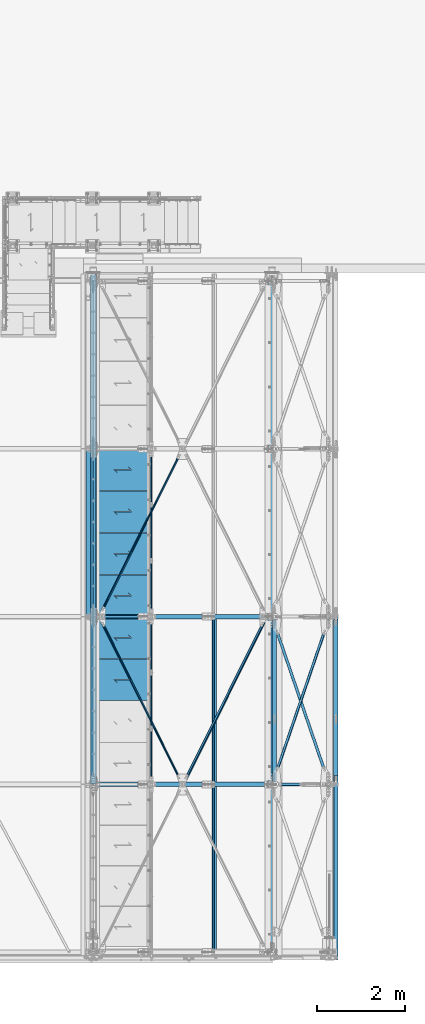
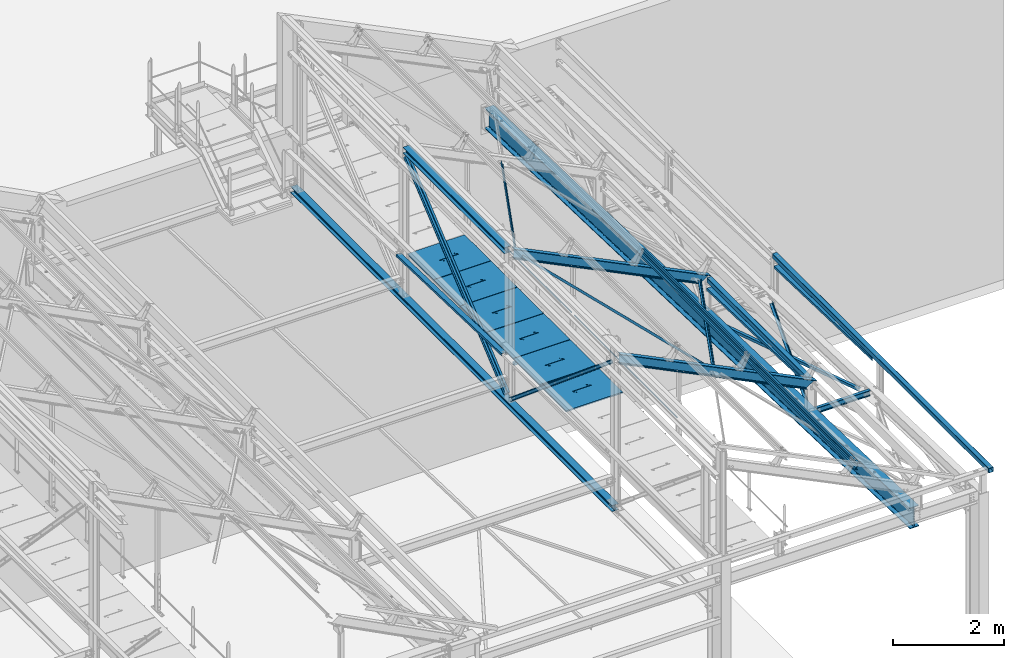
# One storey, part 56 of 362: 24 beams, 5 members, 29 elements without a shape of their own.
"""IFC2X3 building model written with IfcOpenShell, lengths in millimetres."""

from ifc_helpers import new_model, si_unit, frame, origin_with_axes, origin_2d_with_axis, place, context, subcontext, project, spatial, polyline, hollow_rectangle, hollow_circle, i_section, l_section, u_section, outline, extrude, boolean, clip, halfspace, material, type_object, element, aggregate, save


model = new_model("IFC2X3")

# Units and contexts
model_context = context("Model", 3, precision=1e-05, world=origin_with_axes())
body_context = subcontext(model_context, "Body", "Model", "MODEL_VIEW")
ifc_project = project(units=[si_unit("LENGTHUNIT", "METRE", prefix="MILLI"), si_unit("AREAUNIT", "SQUARE_METRE"), si_unit("VOLUMEUNIT", "CUBIC_METRE"), si_unit("MASSUNIT", "GRAM", prefix="KILO"), si_unit("TIMEUNIT", "SECOND"), si_unit("PLANEANGLEUNIT", "RADIAN"), si_unit("SOLIDANGLEUNIT", "STERADIAN"), si_unit("THERMODYNAMICTEMPERATUREUNIT", "DEGREE_CELSIUS"), si_unit("LUMINOUSINTENSITYUNIT", "LUMEN")], contexts=[model_context])

# Site, building, storey
site_placement = place(None, origin_with_axes())
site = spatial("IfcSite", under=ifc_project, at=site_placement, Name="Undefined", CompositionType="ELEMENT")
building_placement = place(site_placement, origin_with_axes())
building = spatial("IfcBuilding", under=site, at=building_placement, Name="Undefined", CompositionType="ELEMENT")
storey_placement = place(building_placement, origin_with_axes())
storey = spatial("IfcBuildingStorey", under=building, at=storey_placement, Name="Undefined", CompositionType="ELEMENT", Elevation=0.0)

# Assembly, beam
assembly_1_placement = place(storey_placement, origin_with_axes())
assembly_1 = element("IfcElementAssembly", 1, at=assembly_1_placement, inside=storey, AssemblyPlace="NOTDEFINED", PredefinedType="NOTDEFINED")
ifc_material_1 = material(Name="Undefined/S235-E24")
beam_type_1 = type_object("IfcBeamType", Name="L50*5", PredefinedType="NOTDEFINED")
beam_1_placement = place(assembly_1_placement, frame((36314.0683436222, 3798.78791014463, 9506.75815228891), z_axis=(0.44122107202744, 0.0, 0.89739844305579), x_axis=(-0.435090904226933, 0.874605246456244, 0.213919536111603)))
beam_1 = element("IfcBeam", 2, at=beam_1_placement, type_object=beam_type_1, material=ifc_material_1, Name="STABILITE CVT", ObjectType="L50*5", context=body_context, shape_type="Clipping", body=[
    clip(clip(extrude(l_section(Depth=50.0, Width=50.0, Thickness=5.0, FilletRadius=7.0, EdgeRadius=3.5, at=origin_2d_with_axis()), frame((4262.41841030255, -3.81543762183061e-12, 2.36611752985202e-13), z_axis=(-1.0, 0.0, 0.0), x_axis=(0.0, -1.0, 0.0)), (0.0, 0.0, 1.0), 4180.02), halfspace(frame((4208.92638047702, -25.0003728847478, -24.9999967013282), z_axis=(-1.0, 0.0, 0.0), x_axis=(0.0, 1.0, 0.0)), True)), halfspace(frame((135.8912948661, 24.9996600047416, -24.9993739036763), z_axis=(1.0, 0.0, 0.0), x_axis=(0.0, -1.0, 0.0)), True)),
])
aggregate(assembly_1, [beam_1])

assembly_2_placement = place(storey_placement, origin_with_axes())
assembly_2 = element("IfcElementAssembly", 3, at=assembly_2_placement, inside=storey, AssemblyPlace="NOTDEFINED", PredefinedType="NOTDEFINED")
beam_2_placement = place(assembly_2_placement, frame((34423.6781423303, 7601.21209454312, 10436.2000510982), z_axis=(0.44122107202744, 0.0, 0.89739844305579), x_axis=(0.435090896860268, 0.874605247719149, -0.213919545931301)))
beam_2 = element("IfcBeam", 4, at=beam_2_placement, type_object=beam_type_1, material=ifc_material_1, Name="STABILITE CVT", ObjectType="L50*5", context=body_context, shape_type="Clipping", body=[
    clip(clip(extrude(l_section(Depth=50.0, Width=50.0, Thickness=5.0, FilletRadius=7.0, EdgeRadius=3.5, at=origin_2d_with_axis()), frame((4262.41864156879, -1.18305882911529e-13, 1.18305882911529e-13), z_axis=(-1.0, 0.0, 0.0), x_axis=(0.0, -1.0, 0.0)), (0.0, 0.0, 1.0), 4180.02), halfspace(frame((4208.92661872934, 25.0000011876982, -24.9994224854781), z_axis=(-1.0, 0.0, 0.0), x_axis=(0.0, 0.0, 1.0)), True)), halfspace(frame((135.891484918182, -25.0000570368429, -24.9999963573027), z_axis=(1.0, 0.0, 0.0), x_axis=(0.0, 0.0, 1.0)), True)),
])
aggregate(assembly_2, [beam_2])

assembly_3_placement = place(storey_placement, origin_with_axes())
assembly_3 = element("IfcElementAssembly", 5, at=assembly_3_placement, inside=storey, AssemblyPlace="NOTDEFINED", PredefinedType="NOTDEFINED")
beam_3_placement = place(assembly_3_placement, frame((38208.3828948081, 7598.78791190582, 8575.3867828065), z_axis=(0.44122107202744, 0.0, 0.89739844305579), x_axis=(-0.43509087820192, -0.874605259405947, 0.213919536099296)))
beam_3 = element("IfcBeam", 6, at=beam_3_placement, type_object=beam_type_1, material=ifc_material_1, Name="STABILITE CVT", ObjectType="L50*5", context=body_context, shape_type="Clipping", body=[
    clip(clip(extrude(l_section(Depth=50.0, Width=50.0, Thickness=5.0, FilletRadius=7.0, EdgeRadius=3.5, at=origin_2d_with_axis()), frame((4267.3912059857, -3.69720075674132e-12, -3.63797880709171e-12), z_axis=(-1.0, 0.0, 0.0), x_axis=(0.0, -1.0, 0.0)), (0.0, 0.0, 1.0), 4189.97), halfspace(frame((4208.9260018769, 24.9996561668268, -24.9993340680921), z_axis=(1.0, 0.0, 0.0), x_axis=(0.0, -1.0, 0.0)), False)), halfspace(frame((135.890938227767, -25.0005331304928, -24.9987602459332), z_axis=(1.0, 0.0, 0.0), x_axis=(0.0, 0.0, 1.0)), True)),
])
aggregate(assembly_3, [beam_3])

assembly_4_placement = place(storey_placement, origin_with_axes())
assembly_4 = element("IfcElementAssembly", 7, at=assembly_4_placement, inside=storey, AssemblyPlace="NOTDEFINED", PredefinedType="NOTDEFINED")
beam_type_2 = type_object("IfcBeamType", Name="L60*6", PredefinedType="NOTDEFINED")
beam_4_placement = place(assembly_4_placement, frame((39627.1613894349, 3796.01336444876, 7774.62276540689), z_axis=(0.946212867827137, 0.323385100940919, -0.0101629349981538), x_axis=(-0.323544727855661, 0.945746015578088, -0.0297200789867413)))
beam_4 = element("IfcBeam", 8, at=beam_4_placement, type_object=beam_type_2, material=ifc_material_1, Name="STABILITE CVT", ObjectType="L60*6", context=body_context, shape_type="Clipping", body=[
    clip(clip(extrude(l_section(Depth=60.0, Width=60.0, Thickness=6.0, FilletRadius=8.0, EdgeRadius=4.0, at=origin_2d_with_axis()), frame((3750.95282930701, -8.83467238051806e-13, -7.58320368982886e-12), z_axis=(-1.0, 0.0, 0.0), x_axis=(0.0, -1.0, 0.0)), (0.0, 0.0, 1.0), 3483.91), halfspace(frame((3710.26461472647, 59.9991086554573, -29.9999875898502), z_axis=(-0.999999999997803, 2.09199999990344e-06, -1.31999999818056e-07), x_axis=(1.69800000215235e-06, 0.999999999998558, 0.0)), True)), halfspace(frame((307.727703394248, 60.0042625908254, 29.9999876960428), z_axis=(0.999999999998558, -1.69800000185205e-06, 0.0), x_axis=(1.69800000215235e-06, 0.999999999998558, 0.0)), True)),
])
aggregate(assembly_4, [beam_4])

assembly_5_placement = place(storey_placement, origin_with_axes())
assembly_5 = element("IfcElementAssembly", 9, at=assembly_5_placement, inside=storey, AssemblyPlace="NOTDEFINED", PredefinedType="NOTDEFINED")
beam_5_placement = place(assembly_5_placement, frame((38332.8386379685, 3798.08647045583, 7840.59014189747), z_axis=(-0.946212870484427, 0.323385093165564, -0.0101629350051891), x_axis=(0.323544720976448, 0.945746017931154, -0.0297200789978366)))
beam_5 = element("IfcBeam", 10, at=beam_5_placement, type_object=beam_type_2, material=ifc_material_1, Name="STABILITE CVT", ObjectType="L60*6", context=body_context, shape_type="Clipping", body=[
    clip(clip(extrude(l_section(Depth=60.0, Width=60.0, Thickness=6.0, FilletRadius=8.0, EdgeRadius=4.0, at=origin_2d_with_axis()), frame((3749.34910549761, -9.09494701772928e-13, 3.90245034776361e-14), z_axis=(-1.0, 0.0, 0.0), x_axis=(0.0, -1.0, 0.0)), (0.0, 0.0, 1.0), 3480.71), halfspace(frame((3710.26460788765, -59.9991249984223, -29.9999532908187), z_axis=(0.999999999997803, 2.09200000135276e-06, 1.31999999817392e-07), x_axis=(1.83599999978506e-06, -0.999999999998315, 0.0)), False)), halfspace(frame((307.727696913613, -60.0042480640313, 30.0000435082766), z_axis=(-0.99999999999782, -2.08799999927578e-06, 0.0), x_axis=(1.83599999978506e-06, -0.999999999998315, 0.0)), False)),
])
aggregate(assembly_5, [beam_5])

assembly_6_placement = place(storey_placement, origin_with_axes())
assembly_6 = element("IfcElementAssembly", 11, at=assembly_6_placement, inside=storey, Name="LISSE", AssemblyPlace="NOTDEFINED", PredefinedType="NOTDEFINED")
beam_type_3 = type_object("IfcBeamType", Name="UPF-100*50*4", PredefinedType="NOTDEFINED")
beam_6_placement = place(assembly_6_placement, frame((34163.5001162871, 7602.95853913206, 8291.3293909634), z_axis=(1.0, 0.0, 0.0), x_axis=(0.0, 0.99950644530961, -0.0314144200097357)))
beam_6 = element("IfcBeam", 12, at=beam_6_placement, type_object=beam_type_3, material=ifc_material_1, Name="LISSE CONTREBARDAGE", ObjectType="UPF-100*50*4", context=body_context, shape_type="SweptSolid", body=[
    extrude(u_section(Depth=100.0, FlangeWidth=50.0, WebThickness=4.0, FlangeThickness=4.0, at=origin_2d_with_axis()), frame((3791.87643071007, 0.0, 0.0), z_axis=(-1.0, 0.0, 0.0), x_axis=(0.0, -1.0, 0.0)), (0.0, 0.0, 1.0), 3791.88),
])
aggregate(assembly_6, [beam_6])

assembly_7_placement = place(storey_placement, origin_with_axes())
assembly_7 = element("IfcElementAssembly", 13, at=assembly_7_placement, inside=storey, Name="LISSE", AssemblyPlace="NOTDEFINED", PredefinedType="NOTDEFINED")
beam_7_placement = place(assembly_7_placement, frame((38380.0000000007, 3800.0, 8410.85601504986), z_axis=(1.0, 0.0, 0.0), x_axis=(0.0, 0.99950644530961, -0.0314144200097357)))
beam_7 = element("IfcBeam", 14, at=beam_7_placement, type_object=beam_type_3, material=ifc_material_1, Name="LISSE CONTREBARDAGE", ObjectType="UPF-100*50*4", context=body_context, shape_type="Clipping", body=[
    clip(clip(extrude(u_section(Depth=100.0, FlangeWidth=50.0, WebThickness=4.0, FlangeThickness=4.0, at=origin_2d_with_axis()), frame((3738.43154409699, 2.59405798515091e-14, 0.0), z_axis=(-1.0, 0.0, 0.0), x_axis=(0.0, -1.0, 0.0)), (0.0, 0.0, 1.0), 3536.42), halfspace(frame((3735.73414698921, 35.3226290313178, 49.9999999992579), z_axis=(-0.999506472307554, -0.0314135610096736, 0.0), x_axis=(0.0, 0.0, 1.0)), True)), halfspace(frame((202.484021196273, 35.5224298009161, 49.9999999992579), z_axis=(0.999506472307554, 0.0314135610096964, 0.0), x_axis=(0.0, 0.0, 1.0)), True)),
])
aggregate(assembly_7, [beam_7])

assembly_8_placement = place(storey_placement, origin_with_axes())
assembly_8 = element("IfcElementAssembly", 15, at=assembly_8_placement, inside=storey, Name="LISSE", AssemblyPlace="NOTDEFINED", PredefinedType="NOTDEFINED")
beam_8_placement = place(assembly_8_placement, frame((39775.0000000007, 3798.76352446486, 8410.85601504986), z_axis=(1.0, 0.0, 0.0), x_axis=(3.14103090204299e-11, 0.999506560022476, -0.0314107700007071)))
beam_8 = element("IfcBeam", 16, at=beam_8_placement, type_object=beam_type_3, material=ifc_material_1, Name="LISSE CONTREBARDAGE", ObjectType="UPF-100*50*4", context=body_context, shape_type="Clipping", body=[
    clip(clip(extrude(u_section(Depth=100.0, FlangeWidth=50.0, WebThickness=4.0, FlangeThickness=4.0, at=origin_2d_with_axis()), frame((3739.66801927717, 0.0, 0.0), z_axis=(-1.0, 0.0, 0.0), x_axis=(0.0, -1.0, 0.0)), (0.0, 0.0, 1.0), 3536.42), halfspace(frame((3736.9701407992, 35.3478853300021, 49.9999999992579), z_axis=(-0.999506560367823, -0.0314107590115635, 0.0), x_axis=(0.0, 0.0, 1.0)), True)), halfspace(frame((203.720015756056, 35.5605322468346, 49.9999999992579), z_axis=(0.999506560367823, 0.0314107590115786, 0.0), x_axis=(0.0, 0.0, 1.0)), True)),
])
aggregate(assembly_8, [beam_8])

assembly_9_placement = place(storey_placement, origin_with_axes())
assembly_9 = element("IfcElementAssembly", 17, at=assembly_9_placement, inside=storey, Name="LISSE", AssemblyPlace="NOTDEFINED", PredefinedType="NOTDEFINED")
beam_type_4 = type_object("IfcBeamType", Name="TUBE-C-100*100*4", PredefinedType="NOTDEFINED")
beam_9_placement = place(assembly_9_placement, frame((39775.0, -180.0, 8500.0), z_axis=(0.0, 0.0, 1.0), x_axis=(0.0, 1.0, 0.0)))
beam_9 = element("IfcBeam", 18, at=beam_9_placement, type_object=beam_type_4, material=ifc_material_1, Name="LISSE ACROTERE", ObjectType="TUBE-C-100*100*4", context=body_context, shape_type="SweptSolid", body=[
    extrude(hollow_rectangle(XDim=100.0, YDim=100.0, WallThickness=4.0, InnerFilletRadius=4.0, OuterFilletRadius=8.0, at=origin_2d_with_axis()), frame((7775.00000003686, 0.0, 0.0), z_axis=(-1.0, 0.0, 0.0), x_axis=(0.0, -1.0, 0.0)), (0.0, 0.0, 1.0), 7775.0),
])
aggregate(assembly_9, [beam_9])

assembly_10_placement = place(storey_placement, origin_with_axes())
assembly_10 = element("IfcElementAssembly", 19, at=assembly_10_placement, inside=storey, Name="LISSE", AssemblyPlace="NOTDEFINED", PredefinedType="NOTDEFINED")
beam_10_placement = place(assembly_10_placement, frame((38380.0, 3870.0, 8500.0), z_axis=(0.0, 0.0, 1.0), x_axis=(0.0, 1.0, 0.0)))
beam_10 = element("IfcBeam", 20, at=beam_10_placement, type_object=beam_type_4, material=ifc_material_1, Name="LISSE ACROTERE", ObjectType="TUBE-C-100*100*4", context=body_context, shape_type="SweptSolid", body=[
    extrude(hollow_rectangle(XDim=100.0, YDim=100.0, WallThickness=4.0, InnerFilletRadius=4.0, OuterFilletRadius=8.0, at=origin_2d_with_axis()), frame((3660.0, 0.0, 0.0), z_axis=(-1.0, 0.0, 0.0), x_axis=(0.0, -1.0, 0.0)), (0.0, 0.0, 1.0), 3660.0),
])
aggregate(assembly_10, [beam_10])

assembly_11_placement = place(storey_placement, origin_with_axes())
assembly_11 = element("IfcElementAssembly", 21, at=assembly_11_placement, inside=storey, AssemblyPlace="NOTDEFINED", PredefinedType="NOTDEFINED")
beam_type_5 = type_object("IfcBeamType", Name="TOLE30*940", PredefinedType="NOTDEFINED")
beam_11_placement = place(assembly_11_placement, frame((35536.4915949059, 8545.00031925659, 8115.0), z_axis=(0.0, 0.0, 1.0), x_axis=(-1.0, 0.0, 0.0)))
beam_11 = element("IfcBeam", 22, at=beam_11_placement, type_object=beam_type_5, material=ifc_material_1, Name="CAILLEBOTIS", ObjectType="TOLE30*940", context=body_context, shape_type="CSG", body=[
    boolean("DIFFERENCE", extrude(outline(polyline([(0.0, 0.0), (1179.99169921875, 0.0), (1179.99169921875, 940.0), (-9.39995516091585e-07, 940.0), (0.0, 0.0)])), frame((0.0, 0.0, -15.0), z_axis=(0.0, 0.0, 1.0), x_axis=(1.0, 0.0, 0.0)), (0.0, 0.0, 1.0), 30.0), extrude(outline(polyline([(0.0, 0.0), (9.99999999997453, 6.91215973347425e-11), (10.0000000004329, 75.8578643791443), (282.842712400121, -196.984848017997), (282.842712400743, -96.9848480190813), (272.842712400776, -96.9848480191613), (272.842712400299, -172.842712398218), (0.0, 100.0), (0.0, 0.0)])), frame((724.286946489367, 535.710676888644, -17.5), z_axis=(0.0, 0.0, 1.0), x_axis=(-0.707106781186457, -0.707106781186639, 0.0)), (0.0, 0.0, 1.0), 35.0)),
])
aggregate(assembly_11, [beam_11])

assembly_12_placement = place(storey_placement, origin_with_axes())
assembly_12 = element("IfcElementAssembly", 23, at=assembly_12_placement, inside=storey, AssemblyPlace="NOTDEFINED", PredefinedType="NOTDEFINED")
beam_12_placement = place(assembly_12_placement, frame((35536.4916006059, 9495.00031925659, 8115.0), z_axis=(0.0, 0.0, 1.0), x_axis=(-1.0, 0.0, 0.0)))
beam_12 = element("IfcBeam", 24, at=beam_12_placement, type_object=beam_type_5, material=ifc_material_1, Name="CAILLEBOTIS", ObjectType="TOLE30*940", context=body_context, shape_type="CSG", body=[
    boolean("DIFFERENCE", extrude(outline(polyline([(0.0, 0.0), (1179.99169921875, 0.0), (1179.99169921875, 940.0), (-9.39995516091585e-07, 940.0), (0.0, 0.0)])), frame((0.0, 0.0, -15.0), z_axis=(0.0, 0.0, 1.0), x_axis=(1.0, 0.0, 0.0)), (0.0, 0.0, 1.0), 30.0), extrude(outline(polyline([(0.0, 0.0), (9.99999999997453, 6.91215973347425e-11), (10.0000000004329, 75.8578643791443), (282.842712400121, -196.984848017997), (282.842712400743, -96.9848480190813), (272.842712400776, -96.9848480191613), (272.842712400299, -172.842712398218), (0.0, 100.0), (0.0, 0.0)])), frame((724.286946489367, 535.710676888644, -17.5), z_axis=(0.0, 0.0, 1.0), x_axis=(-0.707106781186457, -0.707106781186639, 0.0)), (0.0, 0.0, 1.0), 35.0)),
])
aggregate(assembly_12, [beam_12])

assembly_13_placement = place(storey_placement, origin_with_axes())
assembly_13 = element("IfcElementAssembly", 25, at=assembly_13_placement, inside=storey, AssemblyPlace="NOTDEFINED", PredefinedType="NOTDEFINED")
beam_13_placement = place(assembly_13_placement, frame((35536.4916063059, 10445.0003192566, 8115.0), z_axis=(0.0, 0.0, 1.0), x_axis=(-1.0, 0.0, 0.0)))
beam_13 = element("IfcBeam", 26, at=beam_13_placement, type_object=beam_type_5, material=ifc_material_1, Name="CAILLEBOTIS", ObjectType="TOLE30*940", context=body_context, shape_type="CSG", body=[
    boolean("DIFFERENCE", extrude(outline(polyline([(0.0, 0.0), (1179.99169921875, 0.0), (1179.99169921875, 940.0), (-9.39995516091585e-07, 940.0), (0.0, 0.0)])), frame((0.0, 0.0, -15.0), z_axis=(0.0, 0.0, 1.0), x_axis=(1.0, 0.0, 0.0)), (0.0, 0.0, 1.0), 30.0), extrude(outline(polyline([(0.0, 0.0), (9.99999999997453, 6.91215973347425e-11), (10.0000000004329, 75.8578643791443), (282.842712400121, -196.984848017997), (282.842712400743, -96.9848480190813), (272.842712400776, -96.9848480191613), (272.842712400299, -172.842712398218), (0.0, 100.0), (0.0, 0.0)])), frame((724.286946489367, 535.710676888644, -17.5), z_axis=(0.0, 0.0, 1.0), x_axis=(-0.707106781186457, -0.707106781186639, 0.0)), (0.0, 0.0, 1.0), 35.0)),
])
aggregate(assembly_13, [beam_13])

assembly_14_placement = place(storey_placement, origin_with_axes())
assembly_14 = element("IfcElementAssembly", 27, at=assembly_14_placement, inside=storey, AssemblyPlace="NOTDEFINED", PredefinedType="NOTDEFINED")
beam_14_placement = place(assembly_14_placement, frame((35536.4916120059, 11395.0003240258, 8115.0), z_axis=(0.0, 0.0, 1.0), x_axis=(-1.0, 0.0, 0.0)))
beam_14 = element("IfcBeam", 28, at=beam_14_placement, type_object=beam_type_5, material=ifc_material_1, Name="CAILLEBOTIS", ObjectType="TOLE30*940", context=body_context, shape_type="CSG", body=[
    boolean("DIFFERENCE", extrude(outline(polyline([(0.0, 0.0), (1179.99169921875, 0.0), (1179.99169921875, 940.0), (-9.39995516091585e-07, 940.0), (0.0, 0.0)])), frame((0.0, 0.0, -15.0), z_axis=(0.0, 0.0, 1.0), x_axis=(1.0, 0.0, 0.0)), (0.0, 0.0, 1.0), 30.0), extrude(outline(polyline([(0.0, 0.0), (9.99999999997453, 6.91215973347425e-11), (10.0000000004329, 75.8578643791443), (282.842712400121, -196.984848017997), (282.842712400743, -96.9848480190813), (272.842712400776, -96.9848480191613), (272.842712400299, -172.842712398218), (0.0, 100.0), (0.0, 0.0)])), frame((724.286946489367, 535.710676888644, -17.5), z_axis=(0.0, 0.0, 1.0), x_axis=(-0.707106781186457, -0.707106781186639, 0.0)), (0.0, 0.0, 1.0), 35.0)),
])
aggregate(assembly_14, [beam_14])

assembly_15_placement = place(storey_placement, origin_with_axes())
assembly_15 = element("IfcElementAssembly", 29, at=assembly_15_placement, inside=storey, AssemblyPlace="NOTDEFINED", PredefinedType="NOTDEFINED")
beam_15_placement = place(assembly_15_placement, frame((35536.4916063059, 6645.00031925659, 8115.0), z_axis=(0.0, 0.0, 1.0), x_axis=(-1.0, 0.0, 0.0)))
beam_15 = element("IfcBeam", 30, at=beam_15_placement, type_object=beam_type_5, material=ifc_material_1, Name="CAILLEBOTIS", ObjectType="TOLE30*940", context=body_context, shape_type="CSG", body=[
    boolean("DIFFERENCE", extrude(outline(polyline([(0.0, 0.0), (1179.99169921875, 0.0), (1179.99169921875, 940.0), (-9.39995516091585e-07, 940.0), (0.0, 0.0)])), frame((0.0, 0.0, -15.0), z_axis=(0.0, 0.0, 1.0), x_axis=(1.0, 0.0, 0.0)), (0.0, 0.0, 1.0), 30.0), extrude(outline(polyline([(0.0, 0.0), (9.99999999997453, 6.91215973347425e-11), (10.0000000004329, 75.8578643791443), (282.842712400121, -196.984848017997), (282.842712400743, -96.9848480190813), (272.842712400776, -96.9848480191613), (272.842712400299, -172.842712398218), (0.0, 100.0), (0.0, 0.0)])), frame((724.286946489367, 535.710676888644, -17.5), z_axis=(0.0, 0.0, 1.0), x_axis=(-0.707106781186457, -0.707106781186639, 0.0)), (0.0, 0.0, 1.0), 35.0)),
])
aggregate(assembly_15, [beam_15])

assembly_16_placement = place(storey_placement, origin_with_axes())
assembly_16 = element("IfcElementAssembly", 31, at=assembly_16_placement, inside=storey, AssemblyPlace="NOTDEFINED", PredefinedType="NOTDEFINED")
beam_16_placement = place(assembly_16_placement, frame((35536.4916120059, 7595.00032402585, 8115.0), z_axis=(0.0, 0.0, 1.0), x_axis=(-1.0, 0.0, 0.0)))
beam_16 = element("IfcBeam", 32, at=beam_16_placement, type_object=beam_type_5, material=ifc_material_1, Name="CAILLEBOTIS", ObjectType="TOLE30*940", context=body_context, shape_type="CSG", body=[
    boolean("DIFFERENCE", extrude(outline(polyline([(0.0, 0.0), (1179.99169921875, 0.0), (1179.99169921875, 940.0), (-9.39995516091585e-07, 940.0), (0.0, 0.0)])), frame((0.0, 0.0, -15.0), z_axis=(0.0, 0.0, 1.0), x_axis=(1.0, 0.0, 0.0)), (0.0, 0.0, 1.0), 30.0), extrude(outline(polyline([(0.0, 0.0), (9.99999999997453, 6.91215973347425e-11), (10.0000000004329, 75.8578643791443), (282.842712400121, -196.984848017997), (282.842712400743, -96.9848480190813), (272.842712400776, -96.9848480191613), (272.842712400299, -172.842712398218), (0.0, 100.0), (0.0, 0.0)])), frame((724.286946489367, 535.710676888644, -17.5), z_axis=(0.0, 0.0, 1.0), x_axis=(-0.707106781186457, -0.707106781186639, 0.0)), (0.0, 0.0, 1.0), 35.0)),
])
aggregate(assembly_16, [beam_16])

assembly_17_placement = place(storey_placement, origin_with_axes())
assembly_17 = element("IfcElementAssembly", 33, at=assembly_17_placement, inside=storey, Name="MAIN COURANTE", AssemblyPlace="NOTDEFINED", PredefinedType="NOTDEFINED")
beam_type_6 = type_object("IfcBeamType", Name="TUBE-26.9*2", PredefinedType="NOTDEFINED")
beam_17_placement = place(assembly_17_placement, frame((35593.9917170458, 7544.99999422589, 8673.80000207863), z_axis=(0.0, 0.0, 1.0), x_axis=(0.0, -1.0, 0.0)))
beam_17 = element("IfcBeam", 34, at=beam_17_placement, type_object=beam_type_6, material=ifc_material_1, Name="LISSE", ObjectType="TUBE-26.9*2", context=body_context, shape_type="SweptSolid", body=[
    extrude(hollow_circle(Radius=13.44999981, WallThickness=2.0, at=origin_2d_with_axis()), frame((3690.00000000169, 3.69000323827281e-24, 0.0), z_axis=(-1.0, 0.0, 0.0), x_axis=(0.0, -1.0, 0.0)), (0.0, 0.0, 1.0), 3690.0),
])
aggregate(assembly_17, [beam_17])

assembly_18_placement = place(storey_placement, origin_with_axes())
assembly_18 = element("IfcElementAssembly", 35, at=assembly_18_placement, inside=storey, Name="MAIN COURANTE", AssemblyPlace="NOTDEFINED", PredefinedType="NOTDEFINED")
beam_18_placement = place(assembly_18_placement, frame((35593.9917197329, 11344.9999942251, 8673.79999937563), z_axis=(0.0, 0.0, 1.0), x_axis=(0.0, -1.0, 0.0)))
beam_18 = element("IfcBeam", 36, at=beam_18_placement, type_object=beam_type_6, material=ifc_material_1, Name="LISSE", ObjectType="TUBE-26.9*2", context=body_context, shape_type="SweptSolid", body=[
    extrude(hollow_circle(Radius=13.44999981, WallThickness=2.0, at=origin_2d_with_axis()), frame((3690.00000000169, 3.69000323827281e-24, 0.0), z_axis=(-1.0, 0.0, 0.0), x_axis=(0.0, -1.0, 0.0)), (0.0, 0.0, 1.0), 3690.0),
])
aggregate(assembly_18, [beam_18])

assembly_19_placement = place(storey_placement, origin_with_axes())
assembly_19 = element("IfcElementAssembly", 37, at=assembly_19_placement, inside=storey, AssemblyPlace="NOTDEFINED", PredefinedType="NOTDEFINED")
ifc_material_2 = material(Name="Undefined/S275-E28")
beam_type_7 = type_object("IfcBeamType", Name="HEA140", PredefinedType="NOTDEFINED")
beam_19_placement = place(assembly_19_placement, frame((34283.5, 11325.0, 10489.5), z_axis=(0.0, 0.0, 1.0), x_axis=(0.0, -1.0, 0.0)))
beam_19 = element("IfcBeam", 38, at=beam_19_placement, type_object=beam_type_7, material=ifc_material_2, Name="LONGERON", ObjectType="HEA140", context=body_context, shape_type="SweptSolid", body=[
    extrude(i_section(OverallWidth=140.0, OverallDepth=133.0, WebThickness=5.5, FlangeThickness=8.5, FilletRadius=12.0, at=origin_2d_with_axis()), frame((3650.0, 0.0, 0.0), z_axis=(-1.0, 0.0, 0.0), x_axis=(0.0, -1.0, 0.0)), (0.0, 0.0, 1.0), 3650.0),
])
aggregate(assembly_19, [beam_19])

assembly_20_placement = place(storey_placement, origin_with_axes())
assembly_20 = element("IfcElementAssembly", 39, at=assembly_20_placement, inside=storey, AssemblyPlace="NOTDEFINED", PredefinedType="NOTDEFINED")
beam_20_placement = place(assembly_20_placement, frame((34279.9999999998, 15350.000000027, 7183.50000000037), z_axis=(0.0, 0.0, 1.0), x_axis=(0.0, -1.0, 0.0)))
beam_20 = element("IfcBeam", 40, at=beam_20_placement, type_object=beam_type_7, material=ifc_material_2, Name="LONGERON", ObjectType="HEA140", context=body_context, shape_type="SweptSolid", body=[
    extrude(i_section(OverallWidth=140.0, OverallDepth=133.0, WebThickness=5.5, FlangeThickness=8.5, FilletRadius=12.0, at=origin_2d_with_axis()), frame((11545.0000000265, 0.0, 0.0), z_axis=(-1.0, 0.0, 0.0), x_axis=(0.0, -1.0, 0.0)), (0.0, 0.0, 1.0), 11545.0),
])
aggregate(assembly_20, [beam_20])

assembly_21_placement = place(storey_placement, origin_with_axes())
assembly_21 = element("IfcElementAssembly", 41, at=assembly_21_placement, inside=storey, Name="PANNE SHED", AssemblyPlace="NOTDEFINED", PredefinedType="NOTDEFINED")
beam_type_8 = type_object("IfcBeamType", Name="B140/150", PredefinedType="NOTDEFINED")
beam_21_placement = place(assembly_21_placement, frame((37020.1555051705, -154.999920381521, 9532.89989858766), z_axis=(0.44122107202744, 0.0, 0.89739844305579), x_axis=(0.0, 1.0, 0.0)))
beam_21 = element("IfcBeam", 42, at=beam_21_placement, type_object=beam_type_8, material=ifc_material_1, Name="PANNE SHED", ObjectType="B140/150", context=body_context, shape_type="SweptSolid", body=[
    extrude(outline(polyline([(-27.9999999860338, 36.0000000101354), (-27.999999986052, 70.0000000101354), (28.0000000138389, 70.0000000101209), (28.0000000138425, 58.0000000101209), (26.5000000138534, 58.0000000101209), (26.5000000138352, 68.5000000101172), (-26.4999999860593, 68.5000000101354), (-26.4999999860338, 36.7000007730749), (-1.49999998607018, 15.6999998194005), (-1.49999998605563, -15.6999997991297), (-26.4999999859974, -36.7000007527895), (-26.4999999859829, -68.49999998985), (26.5000000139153, -68.4999999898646), (26.500000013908, -57.9999999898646), (28.0000000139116, -57.9999999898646), (28.0000000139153, -69.9999999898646), (-27.9999999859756, -69.99999998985), (-27.9999999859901, -35.99999998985), (-2.99999998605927, -14.9999999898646), (-2.9999999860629, 15.0000000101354), (-27.9999999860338, 36.0000000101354)])), frame((7750.00000000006, -3.63797880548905e-12, 0.0), z_axis=(-1.0, 0.0, 0.0), x_axis=(0.0, -1.0, 0.0)), (0.0, 0.0, 1.0), 7750.0),
])
aggregate(assembly_21, [beam_21])

# Assembly, member
assembly_22_placement = place(storey_placement, origin_with_axes())
assembly_22 = element("IfcElementAssembly", 43, at=assembly_22_placement, inside=storey, AssemblyPlace="NOTDEFINED", PredefinedType="NOTDEFINED")
member_type_1 = type_object("IfcMemberType", Name="UPN80", PredefinedType="NOTDEFINED")
member_1_placement = place(assembly_22_placement, frame((34307.4999999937, 7599.99999999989, 7250.0), z_axis=(0.0, -0.640939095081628, 0.767591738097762), x_axis=(0.0, 0.7675917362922, 0.640939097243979)))
member_1 = element("IfcMember", 44, at=member_1_placement, type_object=member_type_1, material=ifc_material_2, Name="DIAGONALE", ObjectType="UPN80", context=body_context, shape_type="Clipping", body=[
    clip(clip(extrude(u_section(Depth=80.0, FlangeWidth=45.0, WebThickness=6.0, FlangeThickness=8.0, FilletRadius=8.0, EdgeRadius=4.0, FlangeSlope=0.0798299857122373, at=origin_2d_with_axis()), frame((4910.05224962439, 0.0, 1.04649042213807e-12), z_axis=(-1.0, 0.0, 0.0), x_axis=(0.0, -1.0, 0.0)), (0.0, 0.0, 1.0), 4869.56), halfspace(frame((4830.5483535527, 27.5000000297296, 39.9999985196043), z_axis=(1.0, 0.0, 0.0), x_axis=(0.0, 1.0, 0.0)), False)), halfspace(frame((119.999999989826, 27.5000000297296, 39.9999985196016), z_axis=(1.0, 0.0, 0.0), x_axis=(0.0, 1.0, 0.0)), True)),
])
aggregate(assembly_22, [member_1])

assembly_23_placement = place(storey_placement, origin_with_axes())
assembly_23 = element("IfcElementAssembly", 45, at=assembly_23_placement, inside=storey, AssemblyPlace="NOTDEFINED", PredefinedType="NOTDEFINED")
member_2_placement = place(assembly_23_placement, frame((34252.5000000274, 11400.0000003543, 10422.9999997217), z_axis=(0.0, -0.640939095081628, 0.767591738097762), x_axis=(0.0, -0.767591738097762, -0.640939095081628)))
member_2 = element("IfcMember", 46, at=member_2_placement, type_object=member_type_1, material=ifc_material_2, Name="DIAGONALE", ObjectType="UPN80", context=body_context, shape_type="Clipping", body=[
    clip(clip(extrude(u_section(Depth=80.0, FlangeWidth=45.0, WebThickness=6.0, FlangeThickness=8.0, FilletRadius=8.0, EdgeRadius=4.0, FlangeSlope=0.0798299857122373, at=origin_2d_with_axis()), frame((4910.05224962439, 0.0, 1.04649042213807e-12), z_axis=(-1.0, 0.0, 0.0), x_axis=(0.0, -1.0, 0.0)), (0.0, 0.0, 1.0), 4869.56), halfspace(frame((4830.5483535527, 27.5000000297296, 39.9999985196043), z_axis=(-1.0, 0.0, 0.0), x_axis=(0.0, -1.0, 0.0)), True)), halfspace(frame((119.999999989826, 27.5000000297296, 39.9999985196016), z_axis=(-1.0, 0.0, 0.0), x_axis=(0.0, -1.0, 0.0)), False)),
])
aggregate(assembly_23, [member_2])

assembly_24_placement = place(storey_placement, origin_with_axes())
assembly_24 = element("IfcElementAssembly", 47, at=assembly_24_placement, inside=storey, AssemblyPlace="NOTDEFINED", PredefinedType="NOTDEFINED")
member_3_placement = place(assembly_24_placement, frame((34252.4999999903, 3800.00000035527, 10422.9999997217), z_axis=(0.0, -0.640939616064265, -0.767591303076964), x_axis=(0.0, 0.767591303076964, -0.640939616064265)))
member_3 = element("IfcMember", 48, at=member_3_placement, type_object=member_type_1, material=ifc_material_2, Name="DIAGONALE", ObjectType="UPN80", context=body_context, shape_type="Clipping", body=[
    clip(clip(extrude(u_section(Depth=80.0, FlangeWidth=45.0, WebThickness=6.0, FlangeThickness=8.0, FilletRadius=8.0, EdgeRadius=4.0, FlangeSlope=0.0798299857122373, at=origin_2d_with_axis()), frame((4910.05224962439, 0.0, 1.04649042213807e-12), z_axis=(-1.0, 0.0, 0.0), x_axis=(0.0, -1.0, 0.0)), (0.0, 0.0, 1.0), 4869.56), halfspace(frame((4830.54835301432, 27.49999999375, -39.9999989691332), z_axis=(1.0, 0.0, 0.0), x_axis=(0.0, -1.0, 0.0)), False)), halfspace(frame((119.999999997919, 27.49999999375, -39.9999989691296), z_axis=(1.0, 0.0, 0.0), x_axis=(0.0, -1.0, 0.0)), True)),
])
aggregate(assembly_24, [member_3])

# Assembly, beam
assembly_25_placement = place(storey_placement, origin_with_axes())
assembly_25 = element("IfcElementAssembly", 49, at=assembly_25_placement, inside=storey, Name="TRAVERSE", AssemblyPlace="NOTDEFINED", PredefinedType="NOTDEFINED")
beam_type_9 = type_object("IfcBeamType", Name="IPE450", PredefinedType="NOTDEFINED")
beam_22_placement = place(assembly_25_placement, frame((38330.0000000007, 73.5353861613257, 7822.57984998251), z_axis=(-1.05403257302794e-09, -0.0314112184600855, -0.999506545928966), x_axis=(3.14103090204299e-11, 0.999506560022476, -0.0314107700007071)))
beam_22 = element("IfcBeam", 50, at=beam_22_placement, type_object=beam_type_9, material=ifc_material_2, Name="TRAVERSE", ObjectType="IPE450", context=body_context, shape_type="Clipping", body=[
    clip(extrude(i_section(OverallWidth=190.0, OverallDepth=450.0, WebThickness=9.399999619, FlangeThickness=14.60000038, FilletRadius=21.0, at=origin_2d_with_axis()), frame((15316.9552171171, 0.0, 0.0), z_axis=(-1.0, 0.0, 0.0), x_axis=(0.0, -1.0, 0.0)), (0.0, 0.0, 1.0), 15316.96), halfspace(frame((15276.9354795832, -95.0, -225.000007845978), z_axis=(0.999506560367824, 0.0, -0.0314107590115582), x_axis=(0.0314107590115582, 0.0, 0.999506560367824)), False)),
])
aggregate(assembly_25, [beam_22])

assembly_26_placement = place(storey_placement, origin_with_axes())
assembly_26 = element("IfcElementAssembly", 51, at=assembly_26_placement, inside=storey, AssemblyPlace="NOTDEFINED", PredefinedType="NOTDEFINED")
beam_type_10 = type_object("IfcBeamType", Name="TUBE-C-60*60*3", PredefinedType="NOTDEFINED")
beam_23_placement = place(assembly_26_placement, frame((34357.991943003, 7600.0, 8015.0), z_axis=(0.0, -1.0, 0.0), x_axis=(1.0, 0.0, 0.0)))
beam_23 = element("IfcBeam", 52, at=beam_23_placement, type_object=beam_type_10, material=ifc_material_1, Name="SOLIVE", ObjectType="TUBE-C-60*60*3", context=body_context, shape_type="SweptSolid", body=[
    extrude(hollow_rectangle(XDim=60.0, YDim=60.0, WallThickness=3.0, InnerFilletRadius=3.0, OuterFilletRadius=6.0, at=origin_2d_with_axis()), frame((1181.99977105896, 0.0, 0.0), z_axis=(-1.0, 0.0, 0.0), x_axis=(0.0, -1.0, 0.0)), (0.0, 0.0, 1.0), 1182.0),
])
aggregate(assembly_26, [beam_23])

assembly_27_placement = place(storey_placement, origin_with_axes())
assembly_27 = element("IfcElementAssembly", 53, at=assembly_27_placement, inside=storey, AssemblyPlace="NOTDEFINED", PredefinedType="NOTDEFINED")
beam_type_11 = type_object("IfcBeamType", Name="IPE120", PredefinedType="NOTDEFINED")
beam_24_placement = place(assembly_27_placement, frame((38430.0, 3799.99999999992, 7870.55056696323), z_axis=(7.58071938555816e-11, 0.0314107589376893, 0.999506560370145), x_axis=(1.0, 0.0, 0.0)))
beam_24 = element("IfcBeam", 54, at=beam_24_placement, type_object=beam_type_11, material=ifc_material_2, Name="PANNE", ObjectType="IPE120", context=body_context, shape_type="SweptSolid", body=[
    extrude(i_section(OverallWidth=64.0, OverallDepth=120.0, WebThickness=4.400000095, FlangeThickness=6.300000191, FilletRadius=7.0, at=origin_2d_with_axis()), frame((1125.00000000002, 0.0, 0.0), z_axis=(-1.0, 0.0, 0.0), x_axis=(0.0, -1.0, 0.0)), (0.0, 0.0, 1.0), 1125.0),
])
aggregate(assembly_27, [beam_24])

# Assembly, member
assembly_28_placement = place(storey_placement, origin_with_axes())
assembly_28 = element("IfcElementAssembly", 55, at=assembly_28_placement, inside=storey, Name="TRAVERSE SHED", AssemblyPlace="NOTDEFINED", PredefinedType="NOTDEFINED")
member_type_2 = type_object("IfcMemberType", Name="IPE200", PredefinedType="NOTDEFINED")
member_4_placement = place(assembly_28_placement, frame((34305.8779065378, 7599.9999999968, 10466.2601489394), z_axis=(0.44122107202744, 0.0, 0.89739844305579), x_axis=(0.897398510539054, 0.0, -0.44122093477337)))
member_4 = element("IfcMember", 56, at=member_4_placement, type_object=member_type_2, material=ifc_material_2, Name="TRAVERSE SHED", ObjectType="IPE200", context=body_context, shape_type="Clipping", body=[
    clip(clip(extrude(i_section(OverallWidth=100.0, OverallDepth=200.0, WebThickness=5.599999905, FlangeThickness=8.5, FilletRadius=12.0, at=origin_2d_with_axis()), frame((4652.25219148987, 0.0, 0.0), z_axis=(-1.0, 0.0, 0.0), x_axis=(0.0, -1.0, 0.0)), (0.0, 0.0, 1.0), 4763.89), halfspace(frame((4421.9420250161, -7599.9999999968, -100.0), z_axis=(0.848887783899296, 0.0, -0.528573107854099), x_axis=(0.0, -1.0, 0.0)), False)), halfspace(frame((5.83309030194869, 3.19837843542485e-09, 102.867936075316), z_axis=(-0.89739851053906, 0.0, -0.44122093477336), x_axis=(0.0, -1.0, 0.0)), False)),
])
aggregate(assembly_28, [member_4])

assembly_29_placement = place(storey_placement, origin_with_axes())
assembly_29 = element("IfcElementAssembly", 57, at=assembly_29_placement, inside=storey, Name="TRAVERSE SHED", AssemblyPlace="NOTDEFINED", PredefinedType="NOTDEFINED")
member_5_placement = place(assembly_29_placement, frame((34305.8779065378, 3799.9999999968, 10466.2601489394), z_axis=(0.44122107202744, 0.0, 0.89739844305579), x_axis=(0.897398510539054, 0.0, -0.44122093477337)))
member_5 = element("IfcMember", 58, at=member_5_placement, type_object=member_type_2, material=ifc_material_2, Name="TRAVERSE SHED", ObjectType="IPE200", context=body_context, shape_type="Clipping", body=[
    clip(clip(extrude(i_section(OverallWidth=100.0, OverallDepth=200.0, WebThickness=5.599999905, FlangeThickness=8.5, FilletRadius=12.0, at=origin_2d_with_axis()), frame((4652.25219148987, 0.0, 0.0), z_axis=(-1.0, 0.0, 0.0), x_axis=(0.0, -1.0, 0.0)), (0.0, 0.0, 1.0), 4763.89), halfspace(frame((4421.9420250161, -3799.9999999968, -100.0), z_axis=(0.848887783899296, 0.0, -0.528573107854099), x_axis=(0.0, -1.0, 0.0)), False)), halfspace(frame((5.83309030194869, 3.19837843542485e-09, 102.867936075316), z_axis=(-0.89739851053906, 0.0, -0.44122093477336), x_axis=(0.0, -1.0, 0.0)), False)),
])
aggregate(assembly_29, [member_5])

save(model, "model.ifc")
